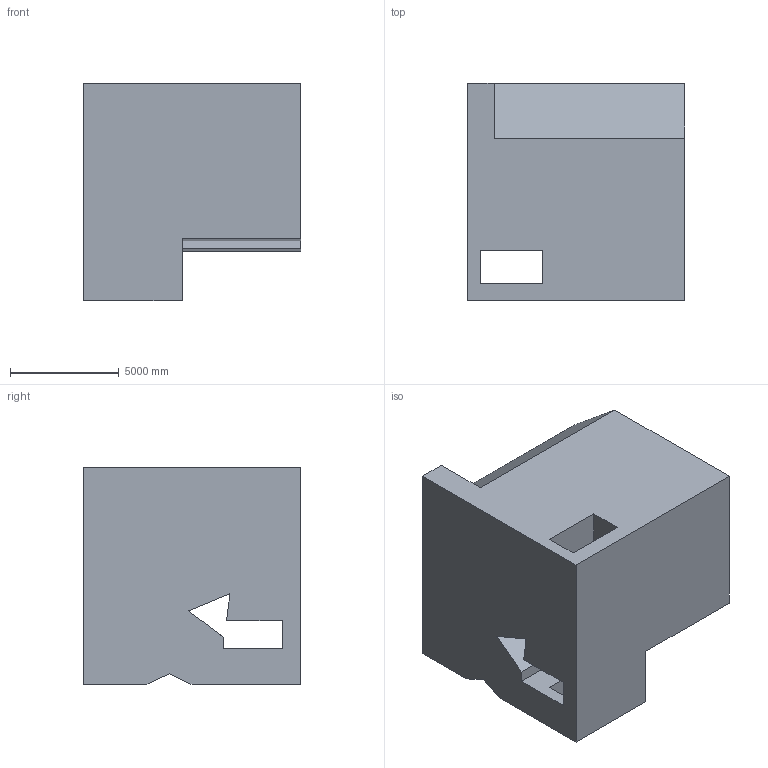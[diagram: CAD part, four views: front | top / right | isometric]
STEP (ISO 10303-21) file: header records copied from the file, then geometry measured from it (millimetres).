
FILE_DESCRIPTION (( 'STEP AP203' ), '1' );
FILE_NAME ('588.STEP', '2022-07-29T11:57:47', ( 'user' ), ( '' ), 'SwSTEP 2.0', 'SolidWorks 2021', '' );
FILE_SCHEMA (( 'CONFIG_CONTROL_DESIGN' ));
Length unit declared in the file: centimetre
Products named in the file (1): 588
Bounding box: 10000 x 10000 x 10000 mm (x, y, z)
Volume: 758280972717.6 mm3; surface area: 688685850 mm2
Topology: 1 solids, 1 shells, 28 faces, 87 edges, 58 vertices
Faces by surface type: plane 28
Entity records: 1040 total; most frequent: CARTESIAN_POINT 174, ORIENTED_EDGE 174, DIRECTION 145, LINE 87, EDGE_CURVE 87, VECTOR 87, VERTEX_POINT 58, EDGE_LOOP 31
